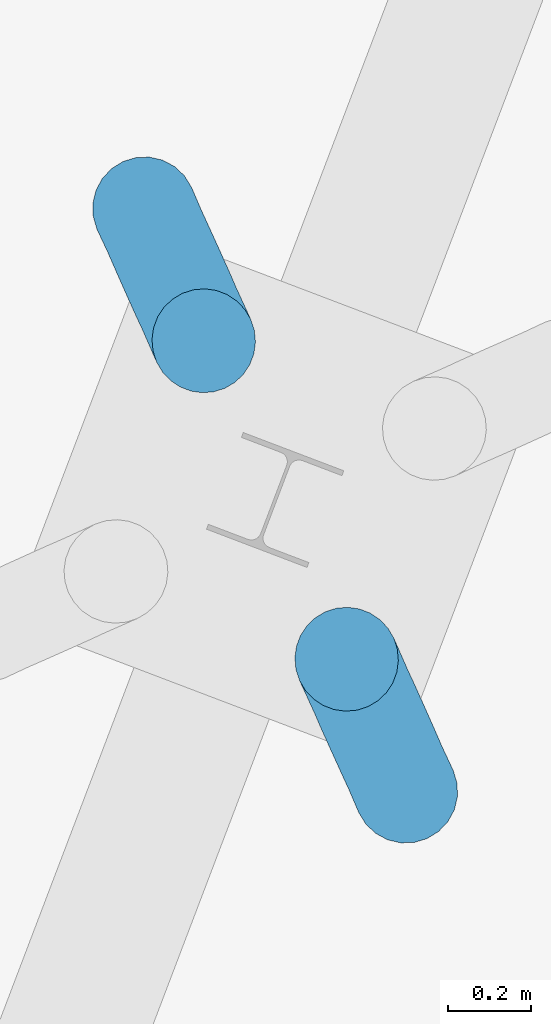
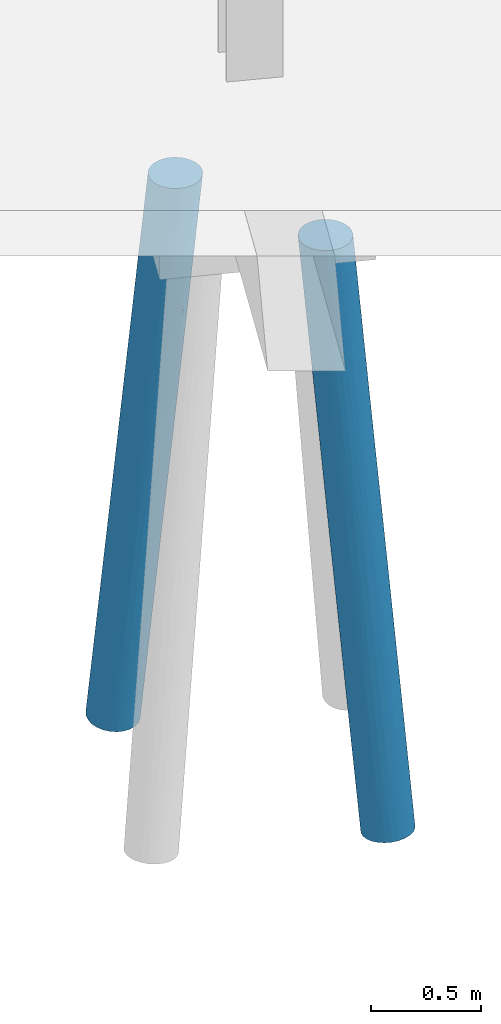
# One storey, part 26 of 46: 2 piles.
"""IFC2X3 building model written with IfcOpenShell, lengths in millimetres."""

from ifc_helpers import new_model, entity, si_unit, converted_unit, derived_unit, direction, frame, origin, place, context, subcontext, project, spatial, faceted_brep, source, transform, mapped, material, type_object, type_shapes, element, save


model = new_model("IFC2X3")

# Units and contexts
model_context = context("Model", 3, precision=0.01, world=origin(), true_north=direction((6.123233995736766e-17, 1.0)))
body_context = subcontext(model_context, "Body", "Model", "MODEL_VIEW")
ifc_project = project(units=[si_unit("LENGTHUNIT", "METRE", prefix="MILLI"), converted_unit("PLANEANGLEUNIT", "DEGREE", entity("IfcPlaneAngleMeasure", 0.017453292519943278), si_unit("PLANEANGLEUNIT", "RADIAN"), dimensions=[0, 0, 0, 0, 0, 0, 0]), si_unit("AREAUNIT", "SQUARE_METRE"), derived_unit("THERMALTRANSMITTANCEUNIT", [(si_unit("MASSUNIT", "GRAM", prefix="KILO"), 1), (si_unit("THERMODYNAMICTEMPERATUREUNIT", "KELVIN"), -1), (si_unit("TIMEUNIT", "SECOND"), -3)])], contexts=[model_context])

# Site, building, storey
site_placement = place(None, frame((-72937.88054949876, 11621.45624098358, 0.0), z_axis=(0.0, 0.0, 1.0), x_axis=(0.9346418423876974, -0.35559053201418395, 0.0)))
site = spatial("IfcSite", under=ifc_project, at=site_placement, Name="Default", CompositionType="ELEMENT")
building_placement = place(site_placement, origin())
building = spatial("IfcBuilding", under=site, at=building_placement, CompositionType="ELEMENT")
storey_placement = place(building_placement, origin())
storey = spatial("IfcBuildingStorey", under=building, at=storey_placement, Name="00 begane grond", CompositionType="ELEMENT", Elevation=0.0)

# Piles
ifc_material = material(Name="beton_gewapend_prefab-element_c45/55")
type_product = type_object("IfcTypeProduct", Name="Type 01", material=ifc_material)
shared_shape = source(origin(), body_context, "Body", "Brep", [
    faceted_brep([(-21.492869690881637, -34.07967924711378, -2142.478153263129), (41.770052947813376, 0.0, -1615.9926657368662), (50.02983679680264, -41.219149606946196, -1478.3429510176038), (-120.39371842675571, -27.815116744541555, -840.0), (-209.76851175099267, 0.0, -1615.9934634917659), (-196.5141812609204, -41.35907440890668, -1560.4595682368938), (-88.87736384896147, -91.39060439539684, -2432.143714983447), (-29.01608810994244, -89.9027707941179, -1907.5825387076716), (-105.46135978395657, -105.60554685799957, -2414.744852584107), (115.53639022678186, -54.235467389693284, -840.0), (100.55257203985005, -77.93622523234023, -840.0), (44.04069234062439, -66.4881713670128, -1422.150587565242), (-241.29781855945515, -62.499999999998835, -4011.9545633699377), (-228.8866429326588, -32.35238063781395, -4013.333582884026), (-181.63351961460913, -47.83542906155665, -3540.4622999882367), (127.99146025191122, 0.0, -840.0), (124.838162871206, -27.815116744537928, -840.0), (56.79144948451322, -112.62110848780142, -840.0), (-1.0422673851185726, -115.29700921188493, -1306.634534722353), (80.6380595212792, -97.7289353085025, -840.0), (-148.00042706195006, -121.55050259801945, -1927.9224619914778), (-119.59016639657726, -124.7753227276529, -1868.475336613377), (-82.66188090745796, -124.23733970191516, -1479.1096584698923), (2.222222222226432, -125.0, -840.0), (-25.764066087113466, -121.86598902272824, -840.0), (35.238837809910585, -88.30507823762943, -1343.9943162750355), (-38.428481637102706, -123.46402257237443, -1382.7576650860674), (30.208510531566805, -121.86598902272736, -840.0), (-105.46067851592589, -124.17311504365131, -1939.1271630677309), (-121.64165871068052, -118.88184081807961, -2304.5646505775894), (-59.29822656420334, -117.91120533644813, -1769.4495348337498), (-224.65342205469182, 0.0, -4013.803940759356), (-181.5427184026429, 0.0, -3625.8076078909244), (-187.86059930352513, -76.09517863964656, -3448.7603995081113), (-111.16783038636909, -79.40373738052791, -2734.720867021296), (-186.42266103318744, -99.1691675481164, -3226.87509877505), (-381.04339378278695, -120.74072828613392, -3996.4272772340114), (-348.8888888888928, -125.0, -4000.0), (-294.25946310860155, -123.9306076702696, -3360.589550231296), (-119.53291308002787, -47.835429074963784, -2981.55684112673), (-105.13946974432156, -22.11026756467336, -2920.330251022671), (-71.50265177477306, -37.61355729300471, -2582.985799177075), (-160.26870491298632, -23.53094104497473, -3414.1045295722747), (-286.7711554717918, -108.25317547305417, -4006.901970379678), (-238.88036705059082, -115.48494156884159, -3443.09153660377), (-261.04114782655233, -88.38834764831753, -4009.7608601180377), (-316.7343839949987, -120.74072828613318, -4003.5727227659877), (-84.00174733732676, -60.02171841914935, -2608.908596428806), (-61.65923548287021, -74.64816535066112, -2322.8523974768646), (-173.2739820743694, -115.31995815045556, -2856.223431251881), (-151.97718420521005, -123.99260475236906, -2371.2114813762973), (-123.54701580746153, 0.0, -840.0), (-250.82857575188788, -22.617884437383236, -2004.2180489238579), (-295.9900076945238, 0.0, -2391.986926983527), (-52.347005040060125, -112.6211084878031, -840.0), (-76.19361507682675, -97.72893530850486, -840.0), (-107.44397040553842, -105.89787173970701, -1225.6035634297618), (-281.4812245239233, -123.93060767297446, -3541.076638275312), (-109.06614769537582, -117.5733672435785, -1457.2474766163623), (-111.0919457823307, -54.235467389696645, -840.0), (-15.85514051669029, -105.72630914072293, -1606.5585830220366), (-146.68659472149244, -88.47759853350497, -1380.5978408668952), (-158.7756678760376, -105.96661342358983, -1688.5825591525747), (-348.5966640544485, -22.310072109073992, -2883.621631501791), (-384.5571817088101, 0.0, -3189.0914931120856), (-404.9818286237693, -23.95962394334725, -3393.9013620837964), (-416.2874807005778, -47.83542904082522, -3560.826702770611), (-468.89113484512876, -32.35238063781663, -3986.6664171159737), (-456.47995921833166, -62.500000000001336, -3988.0454366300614), (-337.6622645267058, -115.48494156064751, -3465.7921474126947), (-411.00662230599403, -108.25317547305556, -3993.0980296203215), (-255.6918544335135, -84.13968982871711, -2324.129304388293), (-241.96823570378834, -100.09571921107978, -2359.7174741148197), (-204.57839676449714, -89.69967503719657, -1912.8684599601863), (-96.10812759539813, -77.93622523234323, -840.0), (-436.73662995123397, -88.38834764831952, -3990.239139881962), (-377.92930595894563, -99.16916753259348, -3572.292603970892), (-206.96183482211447, -60.377923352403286, -1731.5361763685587), (-358.429549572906, -47.83542903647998, -3040.1053226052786), (-296.17437932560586, -43.53585544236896, -2464.518236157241), (-379.61635653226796, -76.09517861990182, -3378.5322028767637), (-430.0136077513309, 0.0, -3598.199327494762), (-306.35511538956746, -77.61365432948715, -2729.9013330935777), (-213.4617402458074, -118.14633713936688, -2411.4959163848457), (-159.2186646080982, -65.41382269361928, -1328.4086999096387), (-67.97340634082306, -109.92592992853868, -2010.6352011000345), (-179.43548008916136, -124.76102802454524, -2404.9604566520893), (-13.219750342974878, -66.34050229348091, -1938.3332116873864), (-236.17409644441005, -124.51562049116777, -2886.015168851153), (-268.30597333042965, -110.23172722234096, -2741.026078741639), (-270.10864031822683, -119.49229851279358, -2958.6820679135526), (-320.7170568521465, -99.16916752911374, -3057.382361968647), (-473.12435572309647, 0.0, -3986.1960592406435), (-138.91569201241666, -99.37675608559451, -2796.855638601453), (-220.46267944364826, -123.93060767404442, -2991.9097324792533), (-44.45135435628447, 0.0, -2391.9853314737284), (-247.15908292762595, -66.69543969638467, -2127.0964328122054), (-134.55238820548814, 0.0, -3202.894636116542), (-89.50217198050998, 0.0, -2797.4426900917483), (-303.09738986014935, -21.900839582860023, -2473.4623287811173), (-340.273594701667, 0.0, -2790.539210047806), (-246.59414544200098, -45.75852255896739, -2025.9931784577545), (124.83816287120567, 27.815116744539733, -840.0), (115.53639022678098, 54.23546738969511, -840.0), (100.55257203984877, 77.93622523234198, -840.0), (80.63805952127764, 97.72893530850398, -840.0), (56.7914494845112, 112.62110848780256, -840.0), (30.20851053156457, 121.86598902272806, -840.0), (2.222222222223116, 125.0, -840.0), (-25.764066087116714, 121.86598902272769, -840.0), (-52.3470050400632, 112.62110848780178, -840.0), (-76.19361507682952, 97.72893530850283, -840.0), (-96.1081275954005, 77.93622523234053, -840.0), (-111.09194578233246, 54.23546738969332, -840.0), (-120.39371842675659, 27.815116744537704, -840.0), (-213.46174017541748, 118.14633716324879, -2411.4959163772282), (-268.3059732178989, 110.23172722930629, -2741.0260778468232), (-241.96823566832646, 100.09571920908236, -2359.717473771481), (-187.14229973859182, 67.59575846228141, -1592.137482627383), (-196.5141812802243, 41.359074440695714, -1560.4595685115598), (-82.66188086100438, 124.23733970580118, -1479.1096583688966), (-29.016087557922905, 89.90277069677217, -1907.5825346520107), (35.23883807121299, 88.30507821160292, -1343.9943141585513), (-13.219750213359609, 66.3405022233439, -1938.3332109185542), (-109.06614766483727, 117.57336725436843, -1457.2474766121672), (-381.04339378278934, 120.74072828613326, -3996.4272772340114), (-337.6622645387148, 115.48494156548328, -3465.7921476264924), (-294.2594631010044, 123.93060767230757, -3360.5895503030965), (-377.9293059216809, 99.16916753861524, -3572.292603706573), (-379.61635651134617, 76.09517863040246, -3378.53220276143), (-320.717056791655, 99.16916754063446, -3057.382361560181), (-286.77115547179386, 108.25317547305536, -4006.901970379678), (-238.88036707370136, 115.48494156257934, -3443.0915369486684), (-186.42266103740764, 99.16916753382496, -3226.875098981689), (-241.29781855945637, 62.50000000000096, -4011.9545633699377), (-181.63351956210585, 47.835429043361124, -3540.4622995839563), (-228.88664293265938, 32.352380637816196, -4013.333582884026), (-107.44397039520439, 105.89787175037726, -1225.6035634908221), (-38.428481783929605, 123.46402262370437, -1382.7576634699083), (-468.89113484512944, 32.35238063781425, -3986.6664171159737), (-173.2739821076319, 115.31995832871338, -2856.223427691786), (-138.91569233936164, 99.37675620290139, -2796.855640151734), (-160.26870486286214, 23.530941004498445, -3414.104529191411), (-261.041147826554, 88.38834764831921, -4009.7608601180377), (-187.86059935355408, 76.09517862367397, -3448.760400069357), (-306.35511542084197, 77.61365434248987, -2729.9013334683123), (-348.8888888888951, 125.0, -4000.0), (-456.47995921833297, 62.49999999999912, -3988.0454366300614), (-416.2874806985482, 47.83542904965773, -3560.826702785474), (-411.0066223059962, 108.25317547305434, -3993.0980296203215), (-436.7366299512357, 88.38834764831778, -3990.239139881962), (-84.00174724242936, 60.02171839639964, -2608.9085956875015), (-21.492869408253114, 34.07967918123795, -2142.4781508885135), (-71.50265159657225, 37.613557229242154, -2582.9857977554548), (-220.46267940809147, 123.93060767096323, -2991.909732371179), (-281.48122449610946, 123.9306076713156, -3541.07663813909), (-148.0004270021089, 121.5505026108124, -1927.922461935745), (-158.7756678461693, 105.9666134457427, -1688.5825592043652), (-15.85514048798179, 105.72630911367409, -1606.5585831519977), (-59.298225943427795, 117.91120535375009, -1769.449528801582), (-1.0422669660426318, 115.29700910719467, -1306.634533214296), (-270.1086403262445, 119.49229851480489, -2958.682068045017), (50.02983688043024, 41.21914955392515, -1478.342950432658), (-146.6865947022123, 88.47759855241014, -1380.5978408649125), (-358.42954957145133, 47.83542905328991, -3040.1053226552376), (-348.59666404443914, 22.310072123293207, -2883.6216314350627), (-296.1743793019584, 43.535855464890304, -2464.5182360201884), (57.21126448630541, 65.80573689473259, -1307.4694469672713), (-121.64165783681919, 118.88184074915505, -2304.564644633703), (-67.97340649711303, 109.92593000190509, -2010.6352012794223), (-105.13946990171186, 22.110267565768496, -2920.330252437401), (-179.4354799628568, 124.7610280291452, -2404.960456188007), (-316.73438399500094, 120.7407282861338, -4003.5727227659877), (-119.53291301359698, 47.8354290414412, -2981.5568406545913), (-250.82857577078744, 22.617884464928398, -2004.2180491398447), (-404.98182862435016, 23.959623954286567, -3393.9013621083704), (-61.65923550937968, 74.64816548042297, -2322.852396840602), (-243.17628094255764, 45.971171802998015, -1995.991919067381), (-105.46135971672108, 105.60554680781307, -2414.7448526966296), (-111.16783063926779, 79.40373735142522, -2734.7208695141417), (-119.59016630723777, 124.7753227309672, -1868.4753363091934), (-236.17409637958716, 124.515620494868, -2886.0151686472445), (-204.5783966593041, 89.69967507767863, -1912.8684593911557), (-247.1590829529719, 66.69543974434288, -2127.0964333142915), (-88.87736442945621, 91.39060438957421, -2432.1437202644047), (-255.69185439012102, 84.13968979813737, -2324.1293037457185), (-168.1781585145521, 123.85607816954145, -2526.387901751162), (-105.46067843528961, 124.17311503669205, -1939.1271628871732), (-303.0973898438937, 21.90083960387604, -2473.4623286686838)], [[[0, 1, 2]], [[3, 4, 5]], [[6, 7, 8]], [[9, 10, 11]], [[12, 13, 14]], [[1, 15, 16]], [[17, 18, 19]], [[20, 21, 22]], [[22, 23, 24]], [[10, 19, 25]], [[26, 18, 27]], [[23, 22, 26]], [[28, 29, 30]], [[13, 31, 32]], [[33, 34, 35]], [[36, 37, 38]], [[39, 40, 41]], [[14, 42, 39]], [[43, 35, 44]], [[33, 35, 45]], [[43, 44, 46]], [[47, 48, 34]], [[49, 29, 50]], [[3, 51, 4]], [[30, 26, 28]], [[52, 4, 53]], [[54, 55, 56]], [[57, 38, 37]], [[58, 24, 54]], [[57, 37, 46]], [[3, 5, 59]], [[2, 16, 9]], [[4, 52, 5]], [[25, 60, 7]], [[45, 35, 43]], [[61, 62, 56]], [[63, 64, 65]], [[66, 67, 68]], [[69, 36, 38]], [[36, 69, 70]], [[71, 72, 73]], [[61, 55, 74]], [[75, 70, 76]], [[61, 77, 73]], [[63, 78, 79]], [[75, 76, 80]], [[64, 81, 65]], [[78, 80, 82]], [[75, 80, 68]], [[72, 83, 62]], [[5, 84, 59]], [[29, 8, 85]], [[11, 10, 25]], [[28, 21, 86]], [[45, 12, 33]], [[49, 44, 35]], [[58, 54, 56]], [[22, 58, 20]], [[0, 2, 87]], [[1, 16, 2]], [[88, 86, 83]], [[39, 42, 40]], [[89, 69, 90]], [[74, 59, 84]], [[62, 73, 72]], [[82, 80, 91]], [[66, 80, 78]], [[14, 33, 12]], [[67, 81, 92]], [[34, 33, 39]], [[39, 41, 47]], [[34, 6, 93]], [[35, 93, 49]], [[57, 44, 94]], [[90, 69, 38]], [[76, 69, 91]], [[34, 39, 47]], [[1, 0, 95]], [[72, 82, 91]], [[82, 96, 79]], [[72, 91, 89]], [[62, 61, 73]], [[32, 42, 13]], [[33, 14, 39]], [[44, 57, 46]], [[38, 57, 94]], [[42, 32, 97]], [[42, 97, 40]], [[13, 42, 14]], [[40, 97, 98, 95]], [[41, 95, 0]], [[61, 56, 55]], [[58, 56, 62]], [[20, 62, 83]], [[24, 58, 22]], [[62, 20, 58]], [[20, 83, 86]], [[83, 90, 88]], [[28, 50, 29]], [[90, 38, 88]], [[89, 90, 83]], [[95, 41, 40]], [[47, 0, 87]], [[0, 47, 41]], [[48, 47, 87]], [[7, 48, 87]], [[6, 34, 48]], [[87, 2, 11]], [[7, 60, 85]], [[60, 25, 19]], [[11, 7, 87]], [[7, 6, 48]], [[93, 6, 8]], [[93, 8, 49]], [[34, 93, 35]], [[29, 49, 8]], [[94, 44, 49]], [[30, 85, 60]], [[28, 86, 50]], [[18, 30, 60]], [[18, 26, 30]], [[23, 26, 27]], [[21, 26, 22]], [[19, 18, 60]], [[18, 17, 27]], [[77, 61, 84]], [[71, 96, 82]], [[72, 89, 83]], [[69, 89, 91]], [[38, 94, 88]], [[50, 88, 94]], [[80, 66, 68]], [[65, 67, 66]], [[78, 63, 65]], [[67, 65, 81]], [[78, 65, 66]], [[78, 82, 79]], [[99, 100, 63]], [[79, 101, 52]], [[99, 63, 79]], [[69, 76, 70]], [[80, 76, 91]], [[96, 71, 73]], [[82, 72, 71]], [[29, 85, 30]], [[7, 85, 8]], [[99, 52, 53]], [[101, 79, 96]], [[77, 84, 5]], [[74, 84, 61]], [[86, 21, 20]], [[26, 21, 28]], [[9, 11, 2]], [[7, 11, 25]], [[88, 50, 86]], [[49, 50, 94]], [[52, 99, 79]], [[100, 64, 63]], [[100, 99, 53]], [[77, 101, 96]], [[5, 52, 101]], [[101, 77, 5]], [[73, 77, 96]], [[24, 23, 27, 17, 19, 10, 9, 16, 15, 102, 103, 104, 105, 106, 107, 108, 109, 110, 111, 112, 113, 114, 51, 3, 59, 74, 55, 54]], [[51, 114, 4]], [[115, 116, 117]], [[118, 113, 112]], [[119, 114, 113]], [[120, 109, 108]], [[121, 122, 123]], [[120, 124, 109]], [[125, 126, 127]], [[128, 129, 130]], [[131, 132, 133]], [[134, 135, 136]], [[137, 111, 110]], [[138, 108, 107]], [[139, 92, 81]], [[140, 141, 133]], [[142, 97, 32]], [[143, 133, 144]], [[130, 129, 145]], [[146, 125, 127]], [[147, 139, 148]], [[149, 150, 128]], [[151, 152, 153]], [[154, 155, 127]], [[124, 156, 157]], [[158, 159, 160]], [[4, 114, 119]], [[160, 107, 106]], [[161, 127, 126]], [[103, 102, 162]], [[158, 160, 105]], [[111, 137, 163]], [[164, 165, 166]], [[105, 104, 122]], [[102, 15, 1]], [[167, 103, 162]], [[167, 123, 122]], [[168, 159, 169]], [[170, 97, 142]], [[115, 156, 171]], [[155, 172, 146]], [[163, 118, 112]], [[169, 159, 158]], [[111, 163, 112]], [[143, 131, 133]], [[130, 145, 117]], [[134, 143, 144]], [[123, 162, 152]], [[129, 150, 147]], [[173, 151, 153]], [[119, 174, 4]], [[148, 175, 164]], [[121, 123, 176]], [[166, 174, 177]], [[140, 168, 178]], [[131, 172, 132]], [[144, 179, 173]], [[171, 156, 180]], [[124, 157, 137]], [[102, 1, 162]], [[152, 1, 95]], [[125, 149, 126]], [[136, 32, 31]], [[115, 181, 161]], [[182, 157, 117]], [[118, 183, 177]], [[148, 129, 147]], [[164, 166, 145]], [[155, 132, 172]], [[164, 175, 165]], [[141, 140, 178]], [[179, 144, 133]], [[135, 144, 173]], [[178, 184, 141]], [[151, 176, 123]], [[128, 126, 149]], [[161, 116, 115]], [[1, 152, 162]], [[95, 170, 153]], [[164, 145, 129]], [[163, 157, 182]], [[185, 183, 182]], [[115, 117, 157]], [[144, 135, 134]], [[142, 136, 135]], [[127, 155, 146]], [[132, 155, 154]], [[173, 170, 142]], [[136, 142, 32]], [[173, 142, 135]], [[153, 170, 173]], [[170, 95, 98, 97]], [[110, 109, 124]], [[163, 137, 157]], [[124, 137, 110]], [[156, 124, 120]], [[180, 156, 120]], [[157, 156, 115]], [[186, 187, 168]], [[161, 181, 127]], [[116, 126, 130]], [[181, 115, 171]], [[173, 179, 151]], [[95, 153, 152]], [[176, 151, 179]], [[152, 151, 123]], [[179, 184, 176]], [[178, 169, 121]], [[121, 176, 184]], [[158, 105, 122]], [[103, 167, 104]], [[158, 122, 121]], [[141, 179, 133]], [[121, 184, 178]], [[179, 141, 184]], [[140, 133, 132]], [[132, 154, 140]], [[181, 186, 154]], [[186, 140, 154]], [[168, 187, 159]], [[138, 159, 187]], [[107, 160, 138]], [[180, 138, 187]], [[108, 138, 120]], [[138, 160, 159]], [[105, 160, 106]], [[185, 182, 117]], [[118, 182, 183]], [[126, 116, 161]], [[117, 116, 130]], [[186, 181, 171]], [[154, 127, 181]], [[81, 175, 139]], [[129, 148, 164]], [[175, 81, 64]], [[175, 64, 165]], [[139, 175, 148]], [[165, 64, 100]], [[166, 183, 145]], [[165, 188, 166]], [[174, 53, 4]], [[129, 128, 150]], [[126, 128, 130]], [[117, 145, 185]], [[183, 185, 145]], [[121, 169, 158]], [[168, 169, 178]], [[177, 174, 119]], [[188, 174, 166]], [[113, 118, 119]], [[182, 118, 163]], [[138, 180, 120]], [[171, 180, 187]], [[123, 167, 162]], [[104, 167, 122]], [[187, 186, 171]], [[140, 186, 168]], [[100, 188, 165]], [[188, 100, 53]], [[174, 188, 53]], [[118, 177, 119]], [[166, 177, 183]], [[146, 172, 131, 143, 134, 136, 31, 13, 12, 45, 43, 46, 37, 36, 70, 75, 68, 67, 92, 139, 147, 150, 149, 125]]]),
])
type_shapes(type_product, [shared_shape])
for number, where, z_axis, x_axis, name in (
    (1, (62600.0, 28460.0, 0.0), (0.0, 0.0, 1.0), (-0.7071067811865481, 0.707106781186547, 0.0), "17.21_Prefab funderingspaal rond"),
    (2, (62000.0, 29060.0, 0.0), (0.0, 0.0, 1.0), (0.7071067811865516, -0.7071067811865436, 0.0), "17.21_Prefab funderingspaal rond"),
):
    element("IfcPile", number, at=place(storey_placement, frame(where, z_axis=z_axis, x_axis=x_axis)), inside=storey, type_object=type_product, material=ifc_material, Name=name, ObjectType="prefab paal rond", PredefinedType="NOTDEFINED", context=body_context, shape_type="MappedRepresentation", body=[
        mapped(shared_shape, transform((0.0, 0.0, 0.0), scale=1.0)),
    ])

save(model, "model.ifc")
